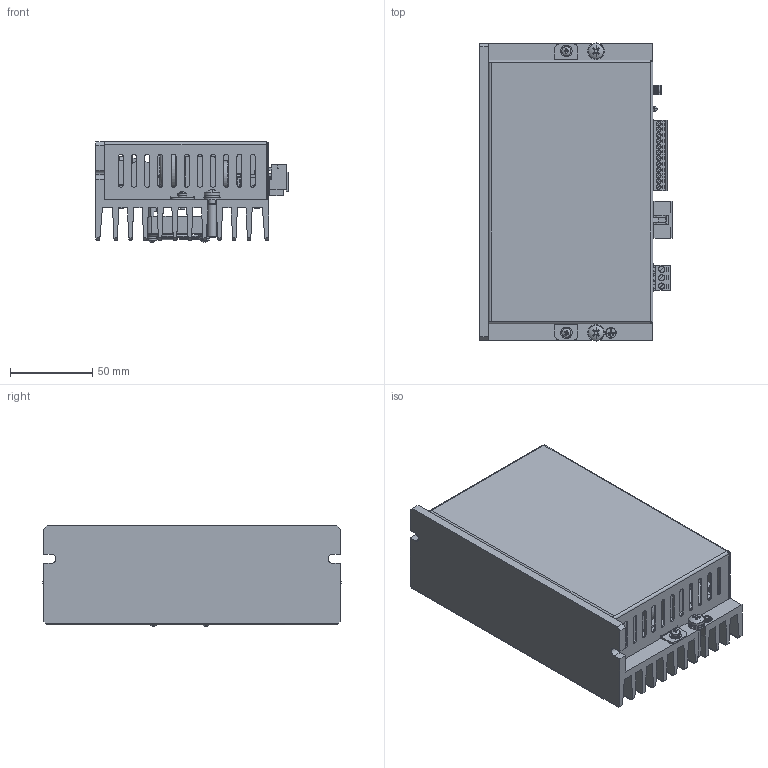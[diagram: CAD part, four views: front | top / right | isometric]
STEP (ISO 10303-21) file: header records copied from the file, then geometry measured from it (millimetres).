
FILE_DESCRIPTION (( 'STEP AP214' ), '1' );
FILE_NAME ('C20-750S2-R 20211026.STEP', '2024-01-29T00:42:50', ( '' ), ( '' ), 'SwSTEP 2.0', 'SolidWorks 2019', '' );
FILE_SCHEMA (( 'AUTOMOTIVE_DESIGN' ));
Length unit declared in the file: millimetre
Products named in the file (41): 电解电容ERS1HM101F12OT; SMTSO-M3-4ET; PCB_20211022; 楷嫖媼憤奪3CR4UD12; PCBA_20211022; 40瑞圮蚾饜; 羲壽萇埭; 40瑞圮; 导热片400HR专用; KF42000-10R(5557)-002; 淕霜Э朏蝶票; STGIB10CH60TS-L; 40瑞圮欶; 十字槽小盘头螺钉、弹簧垫圈及平垫圈组合件 M3-6; 电位器GF063X-B103_TOCOS; 萇埭脣釱GSP001RC-508-03P; 整流桥GBU15-H系列单相整流器-乐山希尔; 萇儂諉諳KF42003-8WA(5569R)-10P(脣釱); KF2EDGR-3.5-12P 脣釱; C20-800S2-R散热器(加风扇)20220416; 曹揤ん; 悵玸佪; 瑩攫諉諳HX25003-4WA; 十字槽小盘头螺钉、弹簧垫圈及平垫圈组合件 M3-10; 功率继电器HF152F-012-1HST; 萇埭脣芛忒賒.; 电位器RA0901NOX0A-VA1-170; 錨璃2^C20-750S2-R 20211026; 十字槽小盘头螺钉、弹簧垫圈及平垫圈组合件 M3-20; 2EDGRC-5.08-03P-14-100AH 脣釱; 俋褲ㄗ鍼踢璃-SPCCㄘ; 拨码开关VPG（S-06H-R）; 絳嫖翐; 十字槽小盘头螺钉、弹簧垫圈及平垫圈组合件 M5-20; 耜楷嫖LED0805; 僕耀萇覜GM221408 220V 5mH 10A; PC橈埽え; C20-750S2-R 20211026; 电解电容EWH2GM181M40OT; KF2EDGK-3.5-12｣ﾐｲ袁ｷ
Assembly tree (59 placements, depth 4):
  錨璃2^C20-750S2-R 20211026
  C20-750S2-R 20211026
    PCBA_20211022
      PCB_20211022
      萇儂諉諳KF42003-8WA(5569R)-10P(脣釱)
      拨码开关VPG（S-06H-R）
      电位器GF063X-B103_TOCOS  x2
      瑩攫諉諳HX25003-4WA
      电位器RA0901NOX0A-VA1-170
      整流桥GBU15-H系列单相整流器-乐山希尔
      功率继电器HF152F-012-1HST
      电解电容EWH2GM181M40OT  x4
      楷嫖媼憤奪3CR4UD12
      羲壽萇埭
        羲壽萇埭
        曹揤ん
        电解电容ERS1HM101F12OT
        楷嫖媼憤奪3CR4UD12
      僕耀萇覜GM221408 220V 5mH 10A
      萇埭脣釱GSP001RC-508-03P
      KF2EDGR-3.5-12P 脣釱
      耜楷嫖LED0805  x2
      悵玸佪
      SMTSO-M3-4ET  x4
    KF42000-10R(5557)-002
    KF2EDGK-3.5-12｣ﾐｲ袁ｷ
    絳嫖翐
    导热片400HR专用
    十字槽小盘头螺钉、弹簧垫圈及平垫圈组合件 M3-6  x2
    十字槽小盘头螺钉、弹簧垫圈及平垫圈组合件 M3-10  x7
    十字槽小盘头螺钉、弹簧垫圈及平垫圈组合件 M5-20  x2
    STGIB10CH60TS-L
    PC橈埽え
    C20-800S2-R散热器(加风扇)20220416
    40瑞圮蚾饜
      40瑞圮欶
      40瑞圮
      十字槽小盘头螺钉、弹簧垫圈及平垫圈组合件 M3-20  x4
    淕霜Э朏蝶票
    俋褲ㄗ鍼踢璃-SPCCㄘ
    2EDGRC-5.08-03P-14-100AH 脣釱
    萇埭脣芛忒賒.
Bounding box: 116.67 x 181 x 60.75 mm (x, y, z)
Volume: 383307 mm3; surface area: 318955.7 mm2
Topology: 99 solids, 102 shells, 5529 faces, 13935 edges, 8895 vertices
Faces by surface type: plane 3771, cylinder 1253, bspline 269, torus 154, cone 53, sphere 29
Entity records: 170462 total; most frequent: CARTESIAN_POINT 39945, ORIENTED_EDGE 23990, DIRECTION 22479, EDGE_CURVE 11995, LINE 8815, VECTOR 8815, VERTEX_POINT 7770, AXIS2_PLACEMENT_3D 6832
